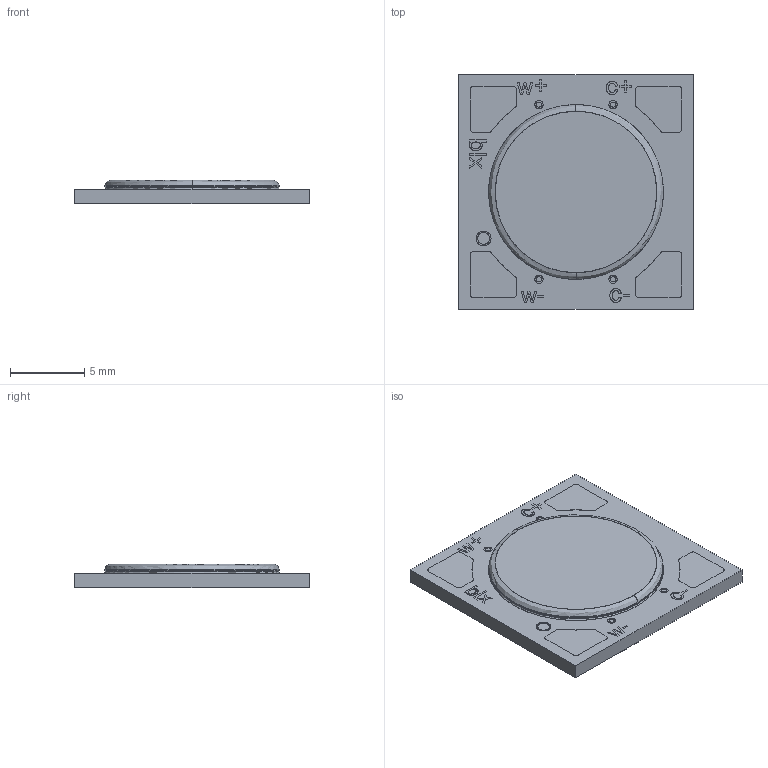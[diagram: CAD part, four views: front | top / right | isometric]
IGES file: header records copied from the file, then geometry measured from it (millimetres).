
Start section: SolidWorks IGES file using analytic representation for surfaces
Global section: file name: D:\Users\5160206\Desktop\3D document\NTW GEN3\NTW9-G3\NTW9-G3 Assembly.IGS; native system: SolidWorks 2018; preprocessor: SolidWorks 2018; author: 5160206; date: 241226.165227; units: millimetre
Bounding box: 15.85 x 15.85 x 1.6 mm (x, y, z)
Surface area: 581.8 mm2 (no closed solid volume)
Topology: 0 solids, 0 shells, 191 faces, 1574 edges, 1574 vertices
Faces by surface type: bspline 147, revolution 44
